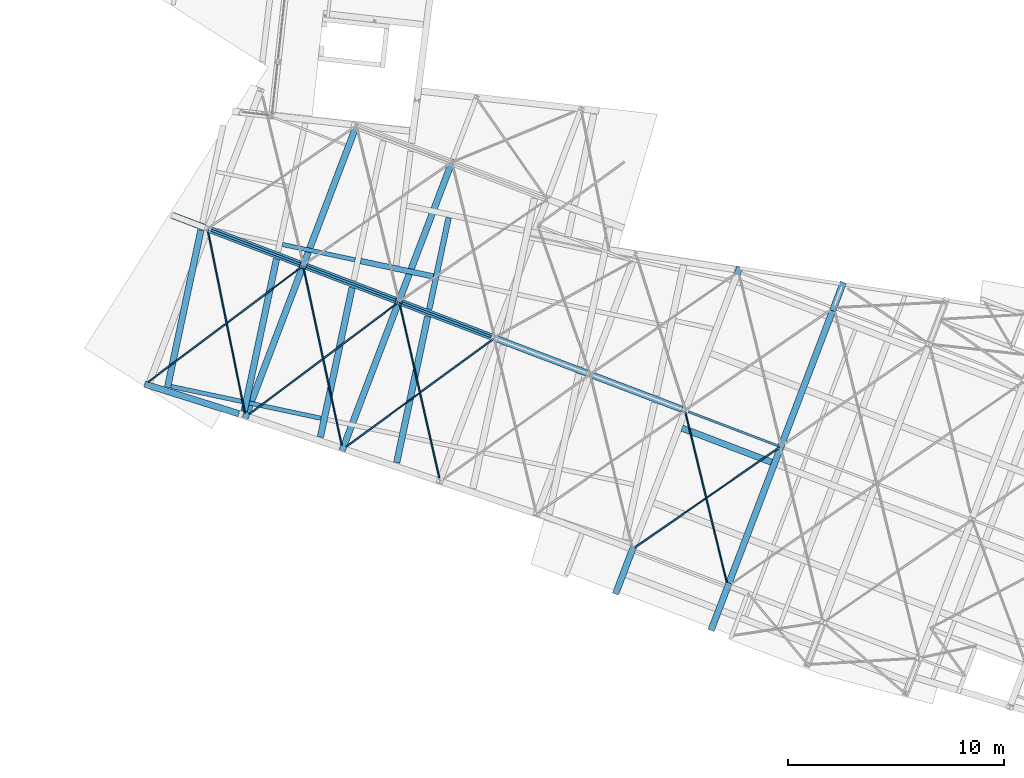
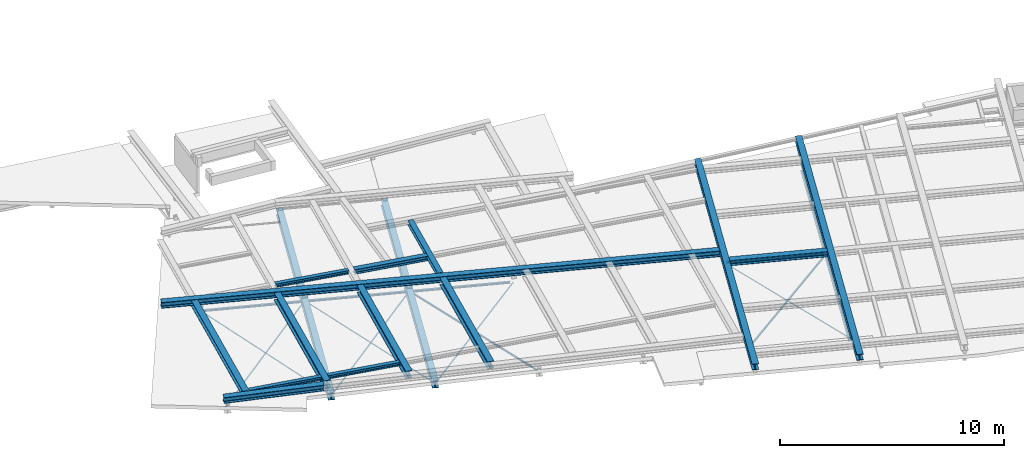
# One storey, part 10 of 21: 29 beams.
"""IFC2X3 building model written with IfcOpenShell, lengths in millimetres."""

from ifc_helpers import new_model, entity, si_unit, converted_unit, derived_unit, direction, frame, frame_2d, origin, place, context, subcontext, project, spatial, polyline, circle_curve, parameter, trimmed, segment, composite_curve, i_section, outline, extrude, material, type_object, element, save


model = new_model("IFC2X3")

# Units and contexts
model_context = context("Model", 3, precision=0.01, world=origin(), true_north=direction((6.123233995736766e-17, 1.0)))
body_context = subcontext(model_context, "Body", "Model", "MODEL_VIEW")
ifc_project = project(units=[si_unit("LENGTHUNIT", "METRE", prefix="MILLI"), converted_unit("PLANEANGLEUNIT", "DEGREE", entity("IfcPlaneAngleMeasure", 0.017453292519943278), si_unit("PLANEANGLEUNIT", "RADIAN"), dimensions=[0, 0, 0, 0, 0, 0, 0]), si_unit("AREAUNIT", "SQUARE_METRE"), derived_unit("THERMALTRANSMITTANCEUNIT", [(si_unit("MASSUNIT", "GRAM", prefix="KILO"), 1), (si_unit("THERMODYNAMICTEMPERATUREUNIT", "KELVIN"), -1), (si_unit("TIMEUNIT", "SECOND"), -3)])], contexts=[model_context])

# Site, building, storey
site_placement = place(None, frame((-72937.88054949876, 11621.45624098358, 0.0), z_axis=(0.0, 0.0, 1.0), x_axis=(0.9346418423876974, -0.35559053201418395, 0.0)))
site = spatial("IfcSite", under=ifc_project, at=site_placement, Name="Default", CompositionType="ELEMENT")
building_placement = place(site_placement, origin())
building = spatial("IfcBuilding", under=site, at=building_placement, CompositionType="ELEMENT")
storey_placement = place(building_placement, frame((0.0, 0.0, 4250.0)))
storey = spatial("IfcBuildingStorey", under=building, at=storey_placement, Name="01 eerste verdieping", CompositionType="ELEMENT", Elevation=4250.0)

# Beams
ifc_material_1 = material(Name="metaal_staal_generiek")
beam_type_1 = type_object("IfcBeamType", Name="DIE38", PredefinedType="BEAM")
beam_1_placement = place(storey_placement, frame((43380.0, 15000.0, -80.0), z_axis=(0.0, 0.0, 1.0), x_axis=(0.0, 1.0, 0.0)))
element("IfcBeam", 1, at=beam_1_placement, inside=storey, type_object=beam_type_1, material=ifc_material_1, Name="28.11_Stalen balk HEA", ObjectType="stalen balk HEA profiel", context=body_context, shape_type="SweptSolid", body=[
    extrude(i_section(OverallWidth=300.0000000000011, OverallDepth=369.9999999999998, WebThickness=10.999999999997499, FlangeThickness=19.000000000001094, FilletRadius=26.999999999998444, at=frame_2d((2.7000623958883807e-13, 0.0), x_axis=(0.0, 1.0))), frame((137.69999999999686, 0.0, -185.0), z_axis=(1.0, 0.0, 0.0), x_axis=(0.0, 0.0, -1.0)), (0.0, 0.0, 1.0), 13484.6),
])
beam_2_placement = place(storey_placement, frame((24460.0, 14590.818432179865, -80.0), z_axis=(0.0, 0.0, 1.0), x_axis=(0.0, 1.0, 0.0)))
element("IfcBeam", 2, at=beam_2_placement, inside=storey, type_object=beam_type_1, material=ifc_material_1, Name="28.11_Stalen balk HEA", ObjectType="stalen balk HEA profiel", context=body_context, shape_type="SweptSolid", body=[
    extrude(i_section(OverallWidth=300.0000000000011, OverallDepth=369.9999999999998, WebThickness=11.00000000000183, FlangeThickness=19.000000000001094, FilletRadius=26.99999999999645, at=frame_2d((2.7000623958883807e-13, -4.334310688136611e-12), x_axis=(0.0, 1.0))), frame((-93.95921608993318, 0.0, -185.0), z_axis=(1.0, 0.0, 0.0), x_axis=(0.0, 0.0, -1.0)), (0.0, 0.0, 1.0), 14423.1),
])
beam_3_placement = place(storey_placement, frame((19730.0, 14403.58467015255, -80.0), z_axis=(0.0, 0.0, 1.0), x_axis=(0.0, 1.0, 0.0)))
element("IfcBeam", 3, at=beam_3_placement, inside=storey, type_object=beam_type_1, material=ifc_material_1, Name="28.11_Stalen balk HEA", ObjectType="stalen balk HEA profiel", context=body_context, shape_type="SweptSolid", body=[
    extrude(i_section(OverallWidth=300.0000000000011, OverallDepth=369.9999999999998, WebThickness=11.00000000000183, FlangeThickness=19.000000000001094, FilletRadius=26.99999999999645, at=frame_2d((2.7000623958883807e-13, 0.0), x_axis=(0.0, 1.0))), frame((-93.99233507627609, 0.0, -185.0), z_axis=(1.0, 0.0, 0.0), x_axis=(0.0, 0.0, -1.0)), (0.0, 0.0, 1.0), 14610.400000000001),
])
beam_type_2 = type_object("IfcBeamType", Name="DIE10", PredefinedType="BEAM")
for number, where, name in (
    (4, (38650.0, 21880.0, -80.0), "28.11_Stalen balk HEA"),
    (5, (19730.0, 21880.0, -80.0), "28.11_Stalen balk HEA"),
    (6, (24460.0, 21880.0, -80.0), "28.11_Stalen balk HEA"),
):
    element("IfcBeam", number, at=place(storey_placement, frame(where)), inside=storey, type_object=beam_type_2, material=ifc_material_1, Name=name, ObjectType="stalen balk HEA profiel", context=body_context, shape_type="SweptSolid", body=[
        extrude(i_section(OverallWidth=99.99999999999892, OverallDepth=95.99999999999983, WebThickness=4.999999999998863, FlangeThickness=8.000000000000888, FilletRadius=12.000000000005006, at=frame_2d((1.623590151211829e-12, 2.1671553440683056e-12), x_axis=(0.0, 1.0))), frame((162.70000000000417, 0.0, -218.0), z_axis=(1.0, 0.0, 0.0), x_axis=(0.0, 0.0, -1.0)), (0.0, 0.0, 1.0), 4404.600000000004),
    ])
beam_4_placement = place(storey_placement, frame((15000.0, 21880.0, -80.0)))
element("IfcBeam", 7, at=beam_4_placement, inside=storey, type_object=beam_type_2, material=ifc_material_1, Name="28.11_Stalen balk HEA", ObjectType="stalen balk HEA profiel", context=body_context, shape_type="SweptSolid", body=[
    extrude(i_section(OverallWidth=99.99999999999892, OverallDepth=95.99999999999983, WebThickness=4.999999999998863, FlangeThickness=8.000000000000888, FilletRadius=12.000000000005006, at=frame_2d((1.623590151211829e-12, 2.1671553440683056e-12), x_axis=(0.0, 1.0))), frame((162.6999999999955, 0.0, -218.0), z_axis=(1.0, 0.0, 0.0), x_axis=(0.0, 0.0, -1.0)), (0.0, 0.0, 1.0), 4404.600000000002),
])
beam_type_3 = type_object("IfcBeamType", Name="L70x7", PredefinedType="NOTDEFINED")
beam_5_placement = place(storey_placement, frame((29190.0, 14778.05219420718, -270.0), z_axis=(0.0, 0.0, 1.0), x_axis=(-0.5543243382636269, 0.8323007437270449, 0.0)))
element("IfcBeam", 8, at=beam_5_placement, inside=storey, type_object=beam_type_3, material=ifc_material_1, Name="28.11_SF_WVB-L-Gelijkzijdig:L70x7", ObjectType="28.11_SF_WVB-L-Gelijkzijdig:L70x7", context=body_context, shape_type="SweptSolid", body=[
    extrude(outline(composite_curve([segment(polyline([(-26.444444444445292, -43.555555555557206), (-23.944444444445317, -43.555555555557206)]), True, "CONTINUOUS"), segment(trimmed(circle_curve(frame_2d((-23.944444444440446, -39.05555555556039), x_axis=(0.0, -1.0)), 4.499999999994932), [parameter(0.0)], [parameter(90.00000000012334)], True, "PARAMETER"), True, "CONTINUOUS"), segment(polyline([(-19.444444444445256, -39.055555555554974), (-19.444444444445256, 10.444444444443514)]), True, "CONTINUOUS"), segment(trimmed(circle_curve(frame_2d((-10.44444444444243, 10.444444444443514), x_axis=(-1.0, 0.0)), 9.000000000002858), [parameter(270.00000000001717)], [parameter(0.0)], True, "PARAMETER"), False, "CONTINUOUS"), segment(polyline([(-10.444444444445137, 19.44444444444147), (39.05555555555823, 19.44444444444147)]), True, "CONTINUOUS"), segment(trimmed(circle_curve(frame_2d((39.0555555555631, 23.944444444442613), x_axis=(0.0, -1.0)), 4.499999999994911), [parameter(0.0)], [parameter(90.00000000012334)], True, "PARAMETER"), True, "CONTINUOUS"), segment(polyline([(43.55555555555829, 23.944444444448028), (43.55555555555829, 26.444444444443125)]), True, "CONTINUOUS"), segment(polyline([(43.55555555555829, 26.444444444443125), (-26.444444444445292, 26.444444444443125)]), True, "CONTINUOUS"), segment(polyline([(-26.444444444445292, 26.444444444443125), (-26.444444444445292, -43.555555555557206)]), True, "CONTINUOUS")], self_intersect=False)), frame((153.60528032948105, -6.744444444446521, -6.7444444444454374), z_axis=(1.0, 0.0, 0.0), x_axis=(0.0, 0.0, -1.0)), (0.0, 0.0, 1.0), 8315.400000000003),
])
beam_6_placement = place(storey_placement, frame((24460.0, 14590.818432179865, -270.0), z_axis=(0.0, 0.0, 1.0), x_axis=(0.5443435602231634, 0.8388623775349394, 0.0)))
element("IfcBeam", 9, at=beam_6_placement, inside=storey, type_object=beam_type_3, material=ifc_material_1, Name="28.11_SF_WVB-L-Gelijkzijdig:L70x7", ObjectType="28.11_SF_WVB-L-Gelijkzijdig:L70x7", context=body_context, shape_type="SweptSolid", body=[
    extrude(outline(composite_curve([segment(polyline([(-26.444444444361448, -43.555555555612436), (-23.944444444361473, -43.55555555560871)]), True, "CONTINUOUS"), segment(trimmed(circle_curve(frame_2d((-23.944444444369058, -39.05555555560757), x_axis=(0.0, -1.0)), 4.499999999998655), [parameter(0.0)], [parameter(89.99999999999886)], True, "PARAMETER"), True, "CONTINUOUS"), segment(polyline([(-19.444444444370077, -39.0555555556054), (-19.44444444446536, 10.44444444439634)]), True, "CONTINUOUS"), segment(trimmed(circle_curve(frame_2d((-10.444444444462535, 10.44444444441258), x_axis=(-1.0, 0.0)), 9.000000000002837), [parameter(270.00000000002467)], [parameter(0.0)], True, "PARAMETER"), False, "CONTINUOUS"), segment(polyline([(-10.444444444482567, 19.444444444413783), (39.0555555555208, 19.44444444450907)]), True, "CONTINUOUS"), segment(trimmed(circle_curve(frame_2d((39.055555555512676, 23.944444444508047), x_axis=(0.0, -1.0)), 4.499999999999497), [parameter(0.0)], [parameter(90.00000000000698)], True, "PARAMETER"), True, "CONTINUOUS"), segment(polyline([(43.5555555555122, 23.944444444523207), (43.55555555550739, 26.44444444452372)]), True, "CONTINUOUS"), segment(polyline([(43.55555555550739, 26.44444444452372), (-26.444444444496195, 26.444444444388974)]), True, "CONTINUOUS"), segment(polyline([(-26.444444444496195, 26.444444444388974), (-26.444444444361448, -43.55555555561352)]), True, "CONTINUOUS")], self_intersect=False)), frame((183.0326100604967, -6.744444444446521, -6.7444444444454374), z_axis=(1.0, 0.0, 0.0), x_axis=(0.0, 0.0, -1.0)), (0.0, 0.0, 1.0), 8430.800000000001),
])
beam_7_placement = place(storey_placement, frame((19730.0, 14403.58467015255, -270.0), z_axis=(0.0, 0.0, 1.0), x_axis=(0.534643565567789, 0.8450776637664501, 0.0)))
element("IfcBeam", 10, at=beam_7_placement, inside=storey, type_object=beam_type_3, material=ifc_material_1, Name="28.11_SF_WVB-L-Gelijkzijdig:L70x7", ObjectType="28.11_SF_WVB-L-Gelijkzijdig:L70x7", context=body_context, shape_type="SweptSolid", body=[
    extrude(outline(composite_curve([segment(polyline([(-26.444444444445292, -43.55555555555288), (-23.944444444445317, -43.55555555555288)]), True, "CONTINUOUS"), segment(trimmed(circle_curve(frame_2d((-23.944444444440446, -39.05555555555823), x_axis=(0.0, -1.0)), 4.499999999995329), [parameter(0.0)], [parameter(90.00000000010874)], True, "PARAMETER"), True, "CONTINUOUS"), segment(polyline([(-19.444444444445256, -39.05555555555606), (-19.444444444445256, 10.44444444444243)]), True, "CONTINUOUS"), segment(trimmed(circle_curve(frame_2d((-10.444444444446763, 10.44444444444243), x_axis=(-1.0, 0.0)), 8.999999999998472), [parameter(269.9999999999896)], [parameter(0.0)], True, "PARAMETER"), False, "CONTINUOUS"), segment(polyline([(-10.444444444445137, 19.4444444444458), (39.05555555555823, 19.4444444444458)]), True, "CONTINUOUS"), segment(trimmed(circle_curve(frame_2d((39.05555555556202, 23.944444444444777), x_axis=(0.0, -1.0)), 4.499999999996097), [parameter(0.0)], [parameter(90.0000000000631)], True, "PARAMETER"), True, "CONTINUOUS"), segment(polyline([(43.55555555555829, 23.944444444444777), (43.55555555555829, 26.44444444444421)]), True, "CONTINUOUS"), segment(polyline([(43.55555555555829, 26.44444444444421), (-26.444444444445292, 26.44444444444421)]), True, "CONTINUOUS"), segment(polyline([(-26.444444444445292, 26.444444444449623), (-26.444444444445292, -43.55555555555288)]), True, "CONTINUOUS")], self_intersect=False)), frame((181.00783271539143, -6.744444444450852, -6.7444444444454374), z_axis=(1.0, 0.0, 0.0), x_axis=(0.0, 0.0, -1.0)), (0.0, 0.0, 1.0), 8609.300000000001),
])
beam_8_placement = place(storey_placement, frame((14842.471915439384, 14144.366270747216, -270.0), z_axis=(0.0, 0.0, 1.0), x_axis=(0.5341386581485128, 0.8453968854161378, 0.0)))
element("IfcBeam", 11, at=beam_8_placement, inside=storey, type_object=beam_type_3, material=ifc_material_1, Name="28.11_SF_WVB-L-Gelijkzijdig:L70x7", ObjectType="28.11_SF_WVB-L-Gelijkzijdig:L70x7", context=body_context, shape_type="SweptSolid", body=[
    extrude(outline(composite_curve([segment(polyline([(-26.444444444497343, -43.55555555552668), (-23.944444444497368, -43.555555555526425)]), True, "CONTINUOUS"), segment(trimmed(circle_curve(frame_2d((-23.944444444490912, -39.05555555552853), x_axis=(0.0, -1.0)), 4.499999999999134), [parameter(0.0)], [parameter(90.00000000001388)], True, "PARAMETER"), True, "CONTINUOUS"), segment(polyline([(-19.444444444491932, -39.05555555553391), (-19.444444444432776, 10.444444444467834)]), True, "CONTINUOUS"), segment(trimmed(circle_curve(frame_2d((-10.44444444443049, 10.444444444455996), x_axis=(-1.0, 0.0)), 9.000000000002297), [parameter(270.00000000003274)], [parameter(0.0)], True, "PARAMETER"), False, "CONTINUOUS"), segment(polyline([(-10.4444444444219, 19.444444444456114), (39.05555555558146, 19.444444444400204)]), True, "CONTINUOUS"), segment(trimmed(circle_curve(frame_2d((39.05555555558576, 23.9444444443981), x_axis=(0.0, -1.0)), 4.500000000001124), [parameter(0.0)], [parameter(89.999999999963)], True, "PARAMETER"), True, "CONTINUOUS"), segment(polyline([(43.555555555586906, 23.94444444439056), (43.5555555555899, 26.444444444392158)]), True, "CONTINUOUS"), segment(polyline([(43.5555555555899, 26.444444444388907), (-26.444444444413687, 26.444444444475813)]), True, "CONTINUOUS"), segment(polyline([(-26.444444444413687, 26.444444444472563), (-26.444444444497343, -43.55555555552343)]), True, "CONTINUOUS")], self_intersect=False)), frame((149.49917709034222, -6.744444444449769, -6.7444444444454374), z_axis=(1.0, 0.0, 0.0), x_axis=(0.0, 0.0, -1.0)), (0.0, 0.0, 1.0), 8909.500000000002),
])
beam_type_4 = type_object("IfcBeamType", Name="L70x7", PredefinedType="BEAM")
beam_9_placement = place(storey_placement, frame((38650.0, 21880.0, -270.0), z_axis=(0.0, 0.0, 1.0), x_axis=(0.5665288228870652, -0.8240419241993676, 0.0)))
element("IfcBeam", 12, at=beam_9_placement, inside=storey, type_object=beam_type_4, material=ifc_material_1, Name="28.11_SF_WVB-L-Gelijkzijdig:L70x7", ObjectType="28.11_SF_WVB-L-Gelijkzijdig:L70x7", context=body_context, shape_type="SweptSolid", body=[
    extrude(outline(composite_curve([segment(polyline([(-26.444444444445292, -43.55555555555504), (-23.944444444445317, -43.55555555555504)]), True, "CONTINUOUS"), segment(trimmed(circle_curve(frame_2d((-23.94444444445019, -39.05555555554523), x_axis=(0.0, -1.0)), 4.500000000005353), [parameter(0.0)], [parameter(89.99999999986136)], True, "PARAMETER"), True, "CONTINUOUS"), segment(polyline([(-19.444444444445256, -39.05555555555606), (-19.444444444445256, 10.44444444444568)]), True, "CONTINUOUS"), segment(trimmed(circle_curve(frame_2d((-10.44444444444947, 10.44444444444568), x_axis=(-1.0, 0.0)), 8.999999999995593), [parameter(269.9999999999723)], [parameter(0.0)], True, "PARAMETER"), False, "CONTINUOUS"), segment(polyline([(-10.444444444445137, 19.444444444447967), (39.05555555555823, 19.444444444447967)]), True, "CONTINUOUS"), segment(trimmed(circle_curve(frame_2d((39.055555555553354, 23.94444444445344), x_axis=(0.0, -1.0)), 4.500000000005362), [parameter(0.0)], [parameter(89.99999999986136)], True, "PARAMETER"), True, "CONTINUOUS"), segment(polyline([(43.55555555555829, 23.944444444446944), (43.55555555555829, 26.444444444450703)]), True, "CONTINUOUS"), segment(polyline([(43.55555555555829, 26.444444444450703), (-26.444444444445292, 26.444444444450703)]), True, "CONTINUOUS"), segment(polyline([(-26.444444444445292, 26.444444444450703), (-26.444444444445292, -43.55555555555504)]), True, "CONTINUOUS")], self_intersect=False)), frame((53.29488537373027, -6.744444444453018, -6.7444444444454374), z_axis=(1.0, 0.0, 0.0), x_axis=(0.0, 0.0, -1.0)), (0.0, 0.0, 1.0), 8119.100000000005),
])
beam_10_placement = place(storey_placement, frame((43380.0, 21880.0, -270.0), z_axis=(0.0, 0.0, 1.0), x_axis=(-0.5665288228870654, -0.8240419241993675, 0.0)))
element("IfcBeam", 13, at=beam_10_placement, inside=storey, type_object=beam_type_4, material=ifc_material_1, Name="28.11_SF_WVB-L-Gelijkzijdig:L70x7", ObjectType="28.11_SF_WVB-L-Gelijkzijdig:L70x7", context=body_context, shape_type="SweptSolid", body=[
    extrude(outline(composite_curve([segment(polyline([(-26.444444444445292, -43.555555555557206), (-23.944444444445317, -43.555555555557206)]), True, "CONTINUOUS"), segment(trimmed(circle_curve(frame_2d((-23.944444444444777, -39.05555555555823), x_axis=(0.0, -1.0)), 4.4999999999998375), [parameter(0.0)], [parameter(90.00000000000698)], True, "PARAMETER"), True, "CONTINUOUS"), segment(polyline([(-19.444444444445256, -39.05555555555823), (-19.444444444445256, 10.444444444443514)]), True, "CONTINUOUS"), segment(trimmed(circle_curve(frame_2d((-10.444444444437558, 10.444444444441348), x_axis=(-1.0, 0.0)), 9.000000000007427), [parameter(270.0000000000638)], [parameter(0.0)], True, "PARAMETER"), False, "CONTINUOUS"), segment(polyline([(-10.444444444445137, 19.4444444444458), (39.05555555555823, 19.444444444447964)]), True, "CONTINUOUS"), segment(trimmed(circle_curve(frame_2d((39.05555555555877, 23.944444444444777), x_axis=(0.0, -1.0)), 4.499999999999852), [parameter(0.0)], [parameter(90.00000000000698)], True, "PARAMETER"), True, "CONTINUOUS"), segment(polyline([(43.55555555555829, 23.944444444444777), (43.55555555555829, 26.44444444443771)]), True, "CONTINUOUS"), segment(polyline([(43.55555555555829, 26.44444444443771), (-26.444444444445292, 26.44444444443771)]), True, "CONTINUOUS"), segment(polyline([(-26.444444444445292, 26.44444444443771), (-26.444444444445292, -43.555555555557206)]), True, "CONTINUOUS")], self_intersect=False)), frame((74.1448853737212, -6.744444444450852, -6.7444444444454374), z_axis=(1.0, 0.0, 0.0), x_axis=(0.0, 0.0, -1.0)), (0.0, 0.0, 1.0), 8109.700000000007),
])
beam_11_placement = place(storey_placement, frame((19730.0, 21880.0, -270.0), z_axis=(0.0, 0.0, 1.0), x_axis=(0.5443435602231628, -0.83886237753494, 0.0)))
element("IfcBeam", 14, at=beam_11_placement, inside=storey, type_object=beam_type_4, material=ifc_material_1, Name="28.11_SF_WVB-L-Gelijkzijdig:L70x7", ObjectType="28.11_SF_WVB-L-Gelijkzijdig:L70x7", context=body_context, shape_type="SweptSolid", body=[
    extrude(outline(composite_curve([segment(polyline([(-26.444444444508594, -43.55555555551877), (-23.94444444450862, -43.555555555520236)]), True, "CONTINUOUS"), segment(trimmed(circle_curve(frame_2d((-23.944444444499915, -39.05555555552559), x_axis=(0.0, -1.0)), 4.499999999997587), [parameter(0.0)], [parameter(90.00000000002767)], True, "PARAMETER"), True, "CONTINUOUS"), segment(polyline([(-19.444444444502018, -39.055555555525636), (-19.444444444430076, 10.444444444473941)]), True, "CONTINUOUS"), segment(trimmed(circle_curve(frame_2d((-10.444444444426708, 10.44444444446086), x_axis=(-1.0, 0.0)), 9.000000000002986), [parameter(270.0000000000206)], [parameter(0.0)], True, "PARAMETER"), False, "CONTINUOUS"), segment(polyline([(-10.444444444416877, 19.44444444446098), (39.05555555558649, 19.444444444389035)]), True, "CONTINUOUS"), segment(trimmed(circle_curve(frame_2d((39.055555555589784, 23.94444444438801), x_axis=(0.0, -1.0)), 4.500000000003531), [parameter(0.0)], [parameter(89.9999999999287)], True, "PARAMETER"), True, "CONTINUOUS"), segment(polyline([(43.555555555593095, 23.944444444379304), (43.555555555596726, 26.444444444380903)]), True, "CONTINUOUS"), segment(polyline([(43.555555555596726, 26.444444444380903), (-26.44444444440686, 26.444444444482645)]), True, "CONTINUOUS"), segment(polyline([(-26.44444444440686, 26.444444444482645), (-26.444444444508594, -43.555555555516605)]), True, "CONTINUOUS")], self_intersect=False)), frame((91.28261006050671, -6.744444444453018, -6.7444444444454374), z_axis=(1.0, 0.0, 0.0), x_axis=(0.0, 0.0, -1.0)), (0.0, 0.0, 1.0), 8427.500000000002),
])
beam_12_placement = place(storey_placement, frame((15000.0, 21880.0, -270.0), z_axis=(0.0, 0.0, 1.0), x_axis=(0.5346435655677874, -0.8450776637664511, 0.0)))
element("IfcBeam", 15, at=beam_12_placement, inside=storey, type_object=beam_type_4, material=ifc_material_1, Name="28.11_SF_WVB-L-Gelijkzijdig:L70x7", ObjectType="28.11_SF_WVB-L-Gelijkzijdig:L70x7", context=body_context, shape_type="SweptSolid", body=[
    extrude(outline(composite_curve([segment(polyline([(-26.444444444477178, -43.555555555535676), (-23.944444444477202, -43.55555555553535)]), True, "CONTINUOUS"), segment(trimmed(circle_curve(frame_2d((-23.94444444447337, -39.055555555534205), x_axis=(0.0, -1.0)), 4.499999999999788), [parameter(0.0)], [parameter(90.00000000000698)], True, "PARAMETER"), True, "CONTINUOUS"), segment(polyline([(-19.44444444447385, -39.055555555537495), (-19.44444444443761, 10.44444444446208)]), True, "CONTINUOUS"), segment(trimmed(circle_curve(frame_2d((-10.444444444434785, 10.444444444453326), x_axis=(-1.0, 0.0)), 9.000000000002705), [parameter(270.00000000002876)], [parameter(0.0)], True, "PARAMETER"), False, "CONTINUOUS"), segment(polyline([(-10.444444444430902, 19.44444444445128), (39.05555555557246, 19.44444444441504)]), True, "CONTINUOUS"), segment(trimmed(circle_curve(frame_2d((39.0555555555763, 23.94444444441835), x_axis=(0.0, -1.0)), 4.499999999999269), [parameter(0.0)], [parameter(90.00000000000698)], True, "PARAMETER"), True, "CONTINUOUS"), segment(polyline([(43.55555555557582, 23.94444444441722), (43.555555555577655, 26.444444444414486)]), True, "CONTINUOUS"), segment(polyline([(43.555555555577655, 26.444444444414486), (-26.444444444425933, 26.444444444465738)]), True, "CONTINUOUS"), segment(polyline([(-26.444444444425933, 26.444444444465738), (-26.444444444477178, -43.555555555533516)]), True, "CONTINUOUS")], self_intersect=False)), frame((30.907832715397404, -6.744444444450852, -6.7444444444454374), z_axis=(1.0, 0.0, 0.0), x_axis=(0.0, 0.0, -1.0)), (0.0, 0.0, 1.0), 8647.200000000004),
])
ifc_material_2 = material(Name="metaal_staal_profiel_s235")
beam_type_5 = type_object("IfcBeamType", Name="HEB320", PredefinedType="BEAM")
beam_13_placement = place(storey_placement, frame((43380.0, 12915.614638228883, 450.0), z_axis=(0.0, 0.0, 1.0), x_axis=(0.0, 1.0, 0.0)))
element("IfcBeam", 16, at=beam_13_placement, inside=storey, type_object=beam_type_5, material=ifc_material_2, Name="28.11_Stalen balk HEB", ObjectType="28.11_SF_BalkHEB:HEB320", context=body_context, shape_type="SweptSolid", body=[
    extrude(i_section(OverallWidth=300.0000000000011, OverallDepth=319.99999999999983, WebThickness=11.500000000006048, FlangeThickness=20.500000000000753, FilletRadius=26.999999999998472, at=frame_2d((5.400124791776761e-13, 0.0), x_axis=(0.0, 1.0))), frame((-124.98674844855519, 0.0, -160.0), z_axis=(1.0, 0.0, 0.0), x_axis=(0.0, 0.0, -1.0)), (0.0, 0.0, 1.0), 17242.4),
])
beam_14_placement = place(storey_placement, frame((38650.0, 12915.614638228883, 450.0), z_axis=(0.0, 0.0, 1.0), x_axis=(0.0, 1.0, 0.0)))
element("IfcBeam", 17, at=beam_14_placement, inside=storey, type_object=beam_type_5, material=ifc_material_2, Name="28.11_Stalen balk HEB", ObjectType="28.11_SF_BalkHEB:HEB320", context=body_context, shape_type="SweptSolid", body=[
    extrude(i_section(OverallWidth=300.0000000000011, OverallDepth=319.99999999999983, WebThickness=11.500000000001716, FlangeThickness=20.500000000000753, FilletRadius=26.999999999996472, at=frame_2d((5.400124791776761e-13, -4.334310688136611e-12), x_axis=(0.0, 1.0))), frame((-124.95731911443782, 0.0, -160.0), z_axis=(1.0, 0.0, 0.0), x_axis=(0.0, 0.0, -1.0)), (0.0, 0.0, 1.0), 16198.599999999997),
])
beam_15_placement = place(storey_placement, frame((19382.78054287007, 14389.840229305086, 450.0), z_axis=(0.0, 0.0, 1.0), x_axis=(-0.9983204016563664, -0.05793423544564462, 0.0)))
element("IfcBeam", 18, at=beam_15_placement, inside=storey, type_object=beam_type_5, material=ifc_material_2, Name="28.11_Stalen balk HEB", ObjectType="28.11_SF_BalkHEB:HEB320", context=body_context, shape_type="SweptSolid", body=[
    extrude(i_section(OverallWidth=300.00000000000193, OverallDepth=319.9999999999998, WebThickness=11.499999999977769, FlangeThickness=20.500000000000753, FilletRadius=27.000000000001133, at=frame_2d((5.400124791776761e-13, 1.0800249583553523e-12), x_axis=(0.0, 1.0))), frame((0.029277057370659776, 0.0, -160.0), z_axis=(1.0, 0.0, 0.0), x_axis=(0.0, 0.0, -1.0)), (0.0, 0.0, 1.0), 4571.900000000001),
])
beam_16_placement = place(storey_placement, frame((13088.5069217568, 21880.0, 450.0)))
element("IfcBeam", 19, at=beam_16_placement, inside=storey, type_object=beam_type_5, material=ifc_material_2, Name="28.11_Stalen balk HEB", ObjectType="28.11_SF_BalkHEB:HEB320", context=body_context, shape_type="SweptSolid", body=[
    extrude(i_section(OverallWidth=300.0000000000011, OverallDepth=319.99999999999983, WebThickness=11.500000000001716, FlangeThickness=20.500000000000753, FilletRadius=26.999999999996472, at=frame_2d((5.400124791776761e-13, 0.0), x_axis=(0.0, 1.0))), frame((155.54653912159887, 0.0, -160.0), z_axis=(1.0, 0.0, 0.0), x_axis=(0.0, 0.0, -1.0)), (0.0, 0.0, 1.0), 25243.200000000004),
])
beam_type_6 = type_object("IfcBeamType", Name="HEA320", PredefinedType="BEAM")
beam_17_placement = place(storey_placement, frame((14694.860830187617, 21880.0, 450.0), z_axis=(0.0, 0.0, 1.0), x_axis=(0.15393076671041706, -0.9880816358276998, 0.0)))
element("IfcBeam", 20, at=beam_17_placement, inside=storey, type_object=beam_type_6, material=ifc_material_2, Name="28.11_Stalen balk HEA", ObjectType="stalen balk HEA profiel", context=body_context, shape_type="SweptSolid", body=[
    extrude(i_section(OverallWidth=300.0000000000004, OverallDepth=309.9999999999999, WebThickness=9.000000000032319, FlangeThickness=15.500000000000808, FilletRadius=26.99999999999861, at=frame_2d((0.0, -3.538502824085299e-12), x_axis=(0.0, 1.0))), frame((175.22560263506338, 0.0, -155.0), z_axis=(1.0, 0.0, 0.0), x_axis=(0.0, 0.0, -1.0)), (0.0, 0.0, 1.0), 7432.200000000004),
])
beam_type_7 = type_object("IfcBeamType", Name="HEB400", PredefinedType="BEAM")
beam_18_placement = place(storey_placement, frame((25928.750417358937, 21880.0, 450.0), z_axis=(0.0, 0.0, 1.0), x_axis=(0.1539307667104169, -0.9880816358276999, 0.0)))
element("IfcBeam", 21, at=beam_18_placement, inside=storey, type_object=beam_type_7, material=ifc_material_2, Name="28.11_Stalen balk HEB", ObjectType="28.11_SF_BalkHEB:HEB400", context=body_context, shape_type="SweptSolid", body=[
    extrude(i_section(OverallWidth=299.99999999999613, OverallDepth=400.0, WebThickness=13.500000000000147, FlangeThickness=24.00000000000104, FilletRadius=27.000000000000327, at=frame_2d((1.3642420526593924e-12, -6.750155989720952e-12), x_axis=(0.0, 1.0))), frame((175.20530300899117, 0.0, -200.0), z_axis=(1.0, 0.0, 0.0), x_axis=(0.0, 0.0, -1.0)), (0.0, 0.0, 1.0), 6917.100000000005),
])
beam_19_placement = place(storey_placement, frame((22184.120554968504, 21880.0, 450.0), z_axis=(0.0, 0.0, 1.0), x_axis=(0.1539307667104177, -0.9880816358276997, 0.0)))
element("IfcBeam", 22, at=beam_19_placement, inside=storey, type_object=beam_type_7, material=ifc_material_2, Name="28.11_Stalen balk HEB", ObjectType="28.11_SF_BalkHEB:HEB400", context=body_context, shape_type="SweptSolid", body=[
    extrude(i_section(OverallWidth=300.0000000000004, OverallDepth=400.0, WebThickness=13.49999999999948, FlangeThickness=24.00000000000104, FilletRadius=26.999999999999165, at=frame_2d((1.0942358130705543e-12, -2.4726887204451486e-12), x_axis=(0.0, 1.0))), frame((175.20384237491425, 0.0, -200.0), z_axis=(1.0, 0.0, 0.0), x_axis=(0.0, 0.0, -1.0)), (0.0, 0.0, 1.0), 7066.2000000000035),
])
beam_20_placement = place(storey_placement, frame((18439.49069257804, 21880.0, 450.0), z_axis=(0.0, 0.0, 1.0), x_axis=(0.1539307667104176, -0.9880816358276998, 0.0)))
element("IfcBeam", 23, at=beam_20_placement, inside=storey, type_object=beam_type_7, material=ifc_material_2, Name="28.11_Stalen balk HEB", ObjectType="28.11_SF_BalkHEB:HEB400", context=body_context, shape_type="SweptSolid", body=[
    extrude(i_section(OverallWidth=300.0000000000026, OverallDepth=400.0, WebThickness=13.49999999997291, FlangeThickness=24.00000000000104, FilletRadius=26.99999999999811, at=frame_2d((1.0800249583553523e-12, -2.1316282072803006e-12), x_axis=(0.0, 1.0))), frame((175.20238174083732, 0.0, -200.0), z_axis=(1.0, 0.0, 0.0), x_axis=(0.0, 0.0, -1.0)), (0.0, 0.0, 1.0), 7215.300000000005),
])
beam_type_8 = type_object("IfcBeamType", Name="HEA260", PredefinedType="BEAM")
beam_21_placement = place(storey_placement, frame((25213.57564728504, 26470.707054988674, 450.0), z_axis=(0.0, 0.0, 1.0), x_axis=(0.15393076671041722, -0.9880816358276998, 0.0)))
element("IfcBeam", 24, at=beam_21_placement, inside=storey, type_object=beam_type_8, material=ifc_material_2, Name="28.11_Stalen balk HEA", ObjectType="stalen balk HEA profiel", context=body_context, shape_type="SweptSolid", body=[
    extrude(i_section(OverallWidth=260.00000000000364, OverallDepth=250.00000000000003, WebThickness=7.499999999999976, FlangeThickness=12.500000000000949, FilletRadius=24.000000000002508, at=frame_2d((-2.7000623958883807e-13, 0.0), x_axis=(0.0, 1.0))), frame((142.94353820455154, 0.0, -125.0), z_axis=(1.0, 0.0, 0.0), x_axis=(0.0, 0.0, -1.0)), (0.0, 0.0, 1.0), 4331.000000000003),
])
beam_22_placement = place(storey_placement, frame((22012.19257815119, 22983.60573300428, 450.0), z_axis=(0.0, 0.0, 1.0), x_axis=(0.9880816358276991, 0.15393076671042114, 0.0)))
element("IfcBeam", 25, at=beam_22_placement, inside=storey, type_object=beam_type_8, material=ifc_material_2, Name="28.11_Stalen balk HEA", ObjectType="stalen balk HEA profiel", context=body_context, shape_type="SweptSolid", body=[
    extrude(i_section(OverallWidth=259.9999999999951, OverallDepth=250.0, WebThickness=7.500000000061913, FlangeThickness=12.500000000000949, FilletRadius=24.00000000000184, at=frame_2d((-2.7000623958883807e-13, 0.0), x_axis=(0.0, 1.0))), frame((129.99999997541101, 0.0, -125.0), z_axis=(1.0, 0.0, 0.0), x_axis=(0.0, 0.0, -1.0)), (0.0, 0.0, 1.0), 3440.000000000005),
])
beam_type_9 = type_object("IfcBeamType", Name="HEA200", PredefinedType="BEAM")
beam_23_placement = place(storey_placement, frame((23166.673361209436, 15572.993253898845, 450.0), z_axis=(0.0, 0.0, 1.0), x_axis=(-0.9880816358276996, -0.15393076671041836, 0.0)))
element("IfcBeam", 26, at=beam_23_placement, inside=storey, type_object=beam_type_9, material=ifc_material_2, Name="28.11_Stalen balk HEA", ObjectType="stalen balk HEA profiel", context=body_context, shape_type="SweptSolid", body=[
    extrude(i_section(OverallWidth=200.00000000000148, OverallDepth=190.0000000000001, WebThickness=6.500000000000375, FlangeThickness=10.000000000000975, FilletRadius=17.999999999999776, at=frame_2d((5.400124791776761e-13, 2.4797941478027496e-12), x_axis=(0.0, 1.0))), frame((162.90214859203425, 0.0, -95.0), z_axis=(1.0, 0.0, 0.0), x_axis=(0.0, 0.0, -1.0)), (0.0, 0.0, 1.0), 3386.9000000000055),
])
beam_24_placement = place(storey_placement, frame((15854.869256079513, 14433.905580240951, 450.0), z_axis=(0.0, 0.0, 1.0), x_axis=(0.9880816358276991, 0.15393076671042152, 0.0)))
element("IfcBeam", 27, at=beam_24_placement, inside=storey, type_object=beam_type_9, material=ifc_material_2, Name="28.11_Stalen balk HEA", ObjectType="stalen balk HEA profiel", context=body_context, shape_type="SweptSolid", body=[
    extrude(i_section(OverallWidth=199.9999999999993, OverallDepth=190.0000000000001, WebThickness=6.500000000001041, FlangeThickness=10.000000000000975, FilletRadius=17.999999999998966, at=frame_2d((5.400124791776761e-13, 1.2292389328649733e-12), x_axis=(0.0, 1.0))), frame((162.9021507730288, 0.0, -95.0), z_axis=(1.0, 0.0, 0.0), x_axis=(0.0, 0.0, -1.0)), (0.0, 0.0, 1.0), 3386.900000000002),
])
beam_25_placement = place(storey_placement, frame((22012.192578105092, 22983.6057329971, 450.0), z_axis=(0.0, 0.0, 1.0), x_axis=(-0.9880816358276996, -0.15393076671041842, 0.0)))
element("IfcBeam", 28, at=beam_25_placement, inside=storey, type_object=beam_type_9, material=ifc_material_2, Name="28.11_Stalen balk HEA", ObjectType="stalen balk HEA profiel", context=body_context, shape_type="SweptSolid", body=[
    extrude(i_section(OverallWidth=200.0000000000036, OverallDepth=190.0000000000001, WebThickness=6.499999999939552, FlangeThickness=10.000000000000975, FilletRadius=18.000000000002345, at=frame_2d((5.400124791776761e-13, -2.1458390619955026e-12), x_axis=(0.0, 1.0))), frame((130.20214852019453, 0.0, -95.0), z_axis=(1.0, 0.0, 0.0), x_axis=(0.0, 0.0, -1.0)), (0.0, 0.0, 1.0), 3439.600000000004),
])
beam_type_10 = type_object("IfcBeamType", Name="HEA300", PredefinedType="BEAM")
beam_26_placement = place(storey_placement, frame((43380.0, 21065.00012850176, 450.0), z_axis=(0.0, 0.0, 1.0), x_axis=(-1.0, 0.0, 0.0)))
element("IfcBeam", 29, at=beam_26_placement, inside=storey, type_object=beam_type_10, material=ifc_material_2, Name="28.11_Stalen balk HEA", ObjectType="stalen balk HEA profiel", context=body_context, shape_type="SweptSolid", body=[
    extrude(i_section(OverallWidth=299.99999999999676, OverallDepth=290.0000000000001, WebThickness=8.500000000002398, FlangeThickness=14.000000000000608, FilletRadius=26.999999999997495, at=frame_2d((0.0, -2.1600499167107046e-12), x_axis=(0.0, 1.0))), frame((150.0, 0.0, -145.0), z_axis=(1.0, 0.0, 0.0), x_axis=(0.0, 0.0, -1.0)), (0.0, 0.0, 1.0), 4429.999999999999),
])

save(model, "model.ifc")
